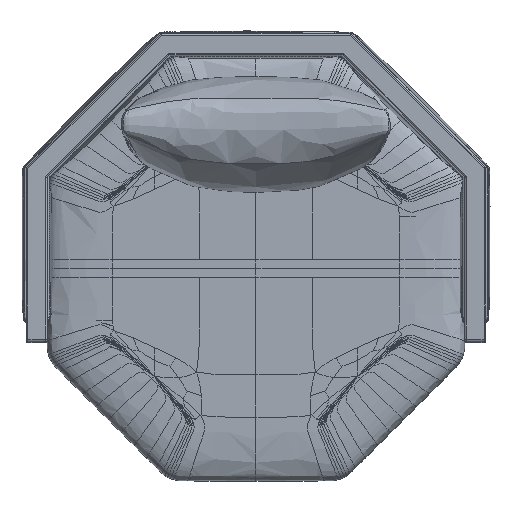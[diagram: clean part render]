
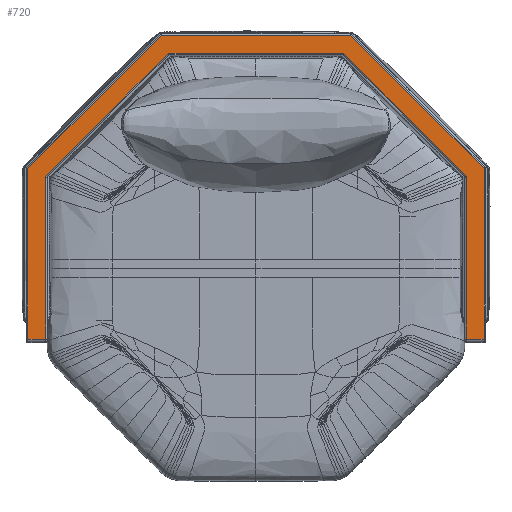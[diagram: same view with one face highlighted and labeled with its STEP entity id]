
A CAD part, top view. The second image highlights one B-rep face of the part: STEP entity #720.
In plain terms, the highlighted planar face has unit normal (0, 0, 1).
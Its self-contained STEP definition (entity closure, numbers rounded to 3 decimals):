
#19=(
BOUNDED_CURVE()
B_SPLINE_CURVE(1,(#111694,#111695),.UNSPECIFIED.,.F.,.F.)
B_SPLINE_CURVE_WITH_KNOTS((2,2),(0.,251.791),.UNSPECIFIED.)
CURVE()
GEOMETRIC_REPRESENTATION_ITEM()
RATIONAL_B_SPLINE_CURVE((1.,1.))
REPRESENTATION_ITEM('')
);
#22=(
BOUNDED_CURVE()
B_SPLINE_CURVE(2,(#111701,#111702,#111703),.UNSPECIFIED.,.F.,.F.)
B_SPLINE_CURVE_WITH_KNOTS((3,3),(0.,3.314),.UNSPECIFIED.)
CURVE()
GEOMETRIC_REPRESENTATION_ITEM()
RATIONAL_B_SPLINE_CURVE((1.,0.924,1.))
REPRESENTATION_ITEM('')
);
#24=(
BOUNDED_CURVE()
B_SPLINE_CURVE(1,(#111707,#111708),.UNSPECIFIED.,.F.,.F.)
B_SPLINE_CURVE_WITH_KNOTS((2,2),(0.,267.582),.UNSPECIFIED.)
CURVE()
GEOMETRIC_REPRESENTATION_ITEM()
RATIONAL_B_SPLINE_CURVE((1.,1.))
REPRESENTATION_ITEM('')
);
#27=(
BOUNDED_CURVE()
B_SPLINE_CURVE(2,(#111714,#111715,#111716),.UNSPECIFIED.,.F.,.F.)
B_SPLINE_CURVE_WITH_KNOTS((3,3),(0.,3.314),.UNSPECIFIED.)
CURVE()
GEOMETRIC_REPRESENTATION_ITEM()
RATIONAL_B_SPLINE_CURVE((1.,0.924,1.))
REPRESENTATION_ITEM('')
);
#29=(
BOUNDED_CURVE()
B_SPLINE_CURVE(1,(#111720,#111721),.UNSPECIFIED.,.F.,.F.)
B_SPLINE_CURVE_WITH_KNOTS((2,2),(0.,267.582),.UNSPECIFIED.)
CURVE()
GEOMETRIC_REPRESENTATION_ITEM()
RATIONAL_B_SPLINE_CURVE((1.,1.))
REPRESENTATION_ITEM('')
);
#32=(
BOUNDED_CURVE()
B_SPLINE_CURVE(2,(#111727,#111728,#111729),.UNSPECIFIED.,.F.,.F.)
B_SPLINE_CURVE_WITH_KNOTS((3,3),(0.,3.314),.UNSPECIFIED.)
CURVE()
GEOMETRIC_REPRESENTATION_ITEM()
RATIONAL_B_SPLINE_CURVE((1.,0.924,1.))
REPRESENTATION_ITEM('')
);
#35=(
BOUNDED_CURVE()
B_SPLINE_CURVE(1,(#111736,#111737),.UNSPECIFIED.,.F.,.F.)
B_SPLINE_CURVE_WITH_KNOTS((2,2),(0.,267.582),.UNSPECIFIED.)
CURVE()
GEOMETRIC_REPRESENTATION_ITEM()
RATIONAL_B_SPLINE_CURVE((1.,1.))
REPRESENTATION_ITEM('')
);
#38=(
BOUNDED_CURVE()
B_SPLINE_CURVE(2,(#111743,#111744,#111745),.UNSPECIFIED.,.F.,.F.)
B_SPLINE_CURVE_WITH_KNOTS((3,3),(0.,3.314),.UNSPECIFIED.)
CURVE()
GEOMETRIC_REPRESENTATION_ITEM()
RATIONAL_B_SPLINE_CURVE((1.,0.924,1.))
REPRESENTATION_ITEM('')
);
#42=(
BOUNDED_CURVE()
B_SPLINE_CURVE(1,(#111755,#111756),.UNSPECIFIED.,.F.,.F.)
B_SPLINE_CURVE_WITH_KNOTS((2,2),(0.,251.791),.UNSPECIFIED.)
CURVE()
GEOMETRIC_REPRESENTATION_ITEM()
RATIONAL_B_SPLINE_CURVE((1.,1.))
REPRESENTATION_ITEM('')
);
#50=(
BOUNDED_CURVE()
B_SPLINE_CURVE(1,(#111781,#111782),.UNSPECIFIED.,.F.,.F.)
B_SPLINE_CURVE_WITH_KNOTS((2,2),(0.,28.),.UNSPECIFIED.)
CURVE()
GEOMETRIC_REPRESENTATION_ITEM()
RATIONAL_B_SPLINE_CURVE((1.,1.))
REPRESENTATION_ITEM('')
);
#64=(
BOUNDED_CURVE()
B_SPLINE_CURVE(1,(#111830,#111831),.UNSPECIFIED.,.F.,.F.)
B_SPLINE_CURVE_WITH_KNOTS((2,2),(-294.092,0.),.UNSPECIFIED.)
CURVE()
GEOMETRIC_REPRESENTATION_ITEM()
RATIONAL_B_SPLINE_CURVE((1.,1.))
REPRESENTATION_ITEM('')
);
#70=(
BOUNDED_CURVE()
B_SPLINE_CURVE(1,(#111844,#111845),.UNSPECIFIED.,.F.,.F.)
B_SPLINE_CURVE_WITH_KNOTS((2,2),(-294.092,0.),.UNSPECIFIED.)
CURVE()
GEOMETRIC_REPRESENTATION_ITEM()
RATIONAL_B_SPLINE_CURVE((1.,1.))
REPRESENTATION_ITEM('')
);
#720=ADVANCED_FACE('',(#1391),#9962,.T.);
#1391=FACE_OUTER_BOUND('',#2062,.T.);
#2062=EDGE_LOOP('',(#5140,#5141,#5142,#5143,#5144,#5145,#5146,#5147,#5148,
#5149,#5150,#5151,#5152,#5153,#5154,#5155));
#5140=ORIENTED_EDGE('',*,*,#6955,.F.);
#5141=ORIENTED_EDGE('',*,*,#6958,.F.);
#5142=ORIENTED_EDGE('',*,*,#6960,.F.);
#5143=ORIENTED_EDGE('',*,*,#6963,.F.);
#5144=ORIENTED_EDGE('',*,*,#6965,.F.);
#5145=ORIENTED_EDGE('',*,*,#6968,.F.);
#5146=ORIENTED_EDGE('',*,*,#6971,.F.);
#5147=ORIENTED_EDGE('',*,*,#6974,.F.);
#5148=ORIENTED_EDGE('',*,*,#6978,.F.);
#5149=ORIENTED_EDGE('',*,*,#6991,.T.);
#5150=ORIENTED_EDGE('',*,*,#6992,.T.);
#5151=ORIENTED_EDGE('',*,*,#7015,.T.);
#5152=ORIENTED_EDGE('',*,*,#6993,.T.);
#5153=ORIENTED_EDGE('',*,*,#7009,.T.);
#5154=ORIENTED_EDGE('',*,*,#6994,.T.);
#5155=ORIENTED_EDGE('',*,*,#6989,.F.);
#6955=EDGE_CURVE('',#9588,#9586,#19,.T.);
#6958=EDGE_CURVE('',#9590,#9588,#22,.T.);
#6960=EDGE_CURVE('',#9592,#9590,#24,.T.);
#6963=EDGE_CURVE('',#9594,#9592,#27,.T.);
#6965=EDGE_CURVE('',#9596,#9594,#29,.T.);
#6968=EDGE_CURVE('',#9598,#9596,#32,.T.);
#6971=EDGE_CURVE('',#9600,#9598,#35,.T.);
#6974=EDGE_CURVE('',#9602,#9600,#38,.T.);
#6978=EDGE_CURVE('',#9604,#9602,#42,.T.);
#6989=EDGE_CURVE('',#9586,#9611,#50,.T.);
#6991=EDGE_CURVE('',#9604,#9612,#8622,.T.);
#6992=EDGE_CURVE('',#9612,#9613,#8623,.T.);
#6993=EDGE_CURVE('',#9614,#9615,#8624,.T.);
#6994=EDGE_CURVE('',#9616,#9611,#8625,.T.);
#7009=EDGE_CURVE('',#9615,#9616,#64,.T.);
#7015=EDGE_CURVE('',#9613,#9614,#70,.T.);
#8622=B_SPLINE_CURVE_WITH_KNOTS('',1,(#111786,#111787),.UNSPECIFIED.,.F.,
 .F.,(2,2),(0.,28.),.UNSPECIFIED.);
#8623=B_SPLINE_CURVE_WITH_KNOTS('',1,(#111788,#111789),.UNSPECIFIED.,.F.,
 .F.,(2,2),(0.,265.046),.UNSPECIFIED.);
#8624=B_SPLINE_CURVE_WITH_KNOTS('',1,(#111790,#111791),.UNSPECIFIED.,.F.,
 .F.,(2,2),(0.,294.092),.UNSPECIFIED.);
#8625=B_SPLINE_CURVE_WITH_KNOTS('',1,(#111792,#111793),.UNSPECIFIED.,.F.,
 .F.,(2,2),(0.,265.046),.UNSPECIFIED.);
#9586=VERTEX_POINT('',#111561);
#9588=VERTEX_POINT('',#111563);
#9590=VERTEX_POINT('',#111565);
#9592=VERTEX_POINT('',#111567);
#9594=VERTEX_POINT('',#111569);
#9596=VERTEX_POINT('',#111571);
#9598=VERTEX_POINT('',#111573);
#9600=VERTEX_POINT('',#111575);
#9602=VERTEX_POINT('',#111577);
#9604=VERTEX_POINT('',#111579);
#9611=VERTEX_POINT('',#111586);
#9612=VERTEX_POINT('',#111587);
#9613=VERTEX_POINT('',#111588);
#9614=VERTEX_POINT('',#111589);
#9615=VERTEX_POINT('',#111590);
#9616=VERTEX_POINT('',#111591);
#9962=PLANE('',#10572);
#10572=AXIS2_PLACEMENT_3D('',#110782,#10876,$);
#10876=DIRECTION('',(0.,0.,1.));
#110782=CARTESIAN_POINT('',(-456.854,-42.42,338.44));
#111561=CARTESIAN_POINT('',(-357.734,5.,338.44));
#111563=CARTESIAN_POINT('',(-357.734,256.791,338.44));
#111565=CARTESIAN_POINT('',(-356.562,259.619,338.44));
#111567=CARTESIAN_POINT('',(-167.353,448.828,338.44));
#111569=CARTESIAN_POINT('',(-164.525,450.,338.44));
#111571=CARTESIAN_POINT('',(103.057,450.,338.44));
#111573=CARTESIAN_POINT('',(105.885,448.828,338.44));
#111575=CARTESIAN_POINT('',(295.094,259.619,338.44));
#111577=CARTESIAN_POINT('',(296.266,256.791,338.44));
#111579=CARTESIAN_POINT('',(296.266,5.,338.44));
#111586=CARTESIAN_POINT('',(-385.734,5.,338.44));
#111587=CARTESIAN_POINT('',(324.266,5.,338.44));
#111588=CARTESIAN_POINT('',(324.266,270.046,338.44));
#111589=CARTESIAN_POINT('',(116.312,478.,338.44));
#111590=CARTESIAN_POINT('',(-177.78,478.,338.44));
#111591=CARTESIAN_POINT('',(-385.734,270.046,338.44));
#111694=CARTESIAN_POINT('',(-357.734,256.791,338.44));
#111695=CARTESIAN_POINT('',(-357.734,5.,338.44));
#111701=CARTESIAN_POINT('',(-356.562,259.619,338.44));
#111702=CARTESIAN_POINT('',(-357.734,258.448,338.44));
#111703=CARTESIAN_POINT('',(-357.734,256.791,338.44));
#111707=CARTESIAN_POINT('',(-167.353,448.828,338.44));
#111708=CARTESIAN_POINT('',(-356.562,259.619,338.44));
#111714=CARTESIAN_POINT('',(-164.525,450.,338.44));
#111715=CARTESIAN_POINT('',(-166.182,450.,338.44));
#111716=CARTESIAN_POINT('',(-167.353,448.828,338.44));
#111720=CARTESIAN_POINT('',(103.057,450.,338.44));
#111721=CARTESIAN_POINT('',(-164.525,450.,338.44));
#111727=CARTESIAN_POINT('',(105.885,448.828,338.44));
#111728=CARTESIAN_POINT('',(104.714,450.,338.44));
#111729=CARTESIAN_POINT('',(103.057,450.,338.44));
#111736=CARTESIAN_POINT('',(295.094,259.619,338.44));
#111737=CARTESIAN_POINT('',(105.885,448.828,338.44));
#111743=CARTESIAN_POINT('',(296.266,256.791,338.44));
#111744=CARTESIAN_POINT('',(296.266,258.448,338.44));
#111745=CARTESIAN_POINT('',(295.094,259.619,338.44));
#111755=CARTESIAN_POINT('',(296.266,5.,338.44));
#111756=CARTESIAN_POINT('',(296.266,256.791,338.44));
#111781=CARTESIAN_POINT('',(-357.734,5.,338.44));
#111782=CARTESIAN_POINT('',(-385.734,5.,338.44));
#111786=CARTESIAN_POINT('',(296.266,5.,338.44));
#111787=CARTESIAN_POINT('',(324.266,5.,338.44));
#111788=CARTESIAN_POINT('',(324.266,5.,338.44));
#111789=CARTESIAN_POINT('',(324.266,270.046,338.44));
#111790=CARTESIAN_POINT('',(116.312,478.,338.44));
#111791=CARTESIAN_POINT('',(-177.78,478.,338.44));
#111792=CARTESIAN_POINT('',(-385.734,270.046,338.44));
#111793=CARTESIAN_POINT('',(-385.734,5.,338.44));
#111830=CARTESIAN_POINT('',(-177.78,478.,338.44));
#111831=CARTESIAN_POINT('',(-385.734,270.046,338.44));
#111844=CARTESIAN_POINT('',(324.266,270.046,338.44));
#111845=CARTESIAN_POINT('',(116.312,478.,338.44));
